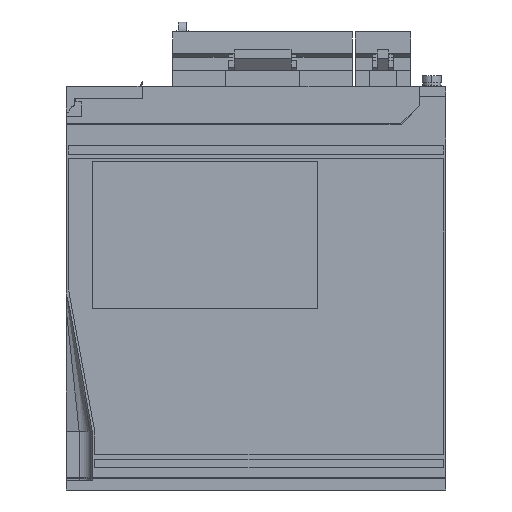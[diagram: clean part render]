
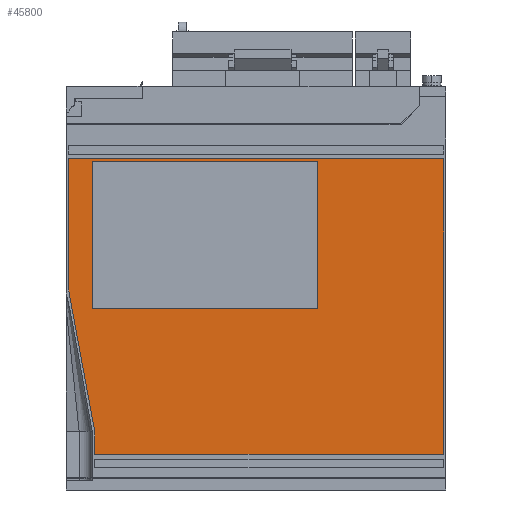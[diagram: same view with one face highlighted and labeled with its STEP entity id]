
A CAD part, left-side view. The second image highlights one B-rep face of the part: STEP entity #45800.
In plain terms, the highlighted planar face has unit normal (-1, 0, 0).
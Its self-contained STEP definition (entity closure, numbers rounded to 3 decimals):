
#25917 = CARTESIAN_POINT ( 'NONE',  ( -4.7, 4., 139.5 ) ) ;
#25918 = LINE ( 'NONE', #25917, #25982 ) ;
#25933 = CARTESIAN_POINT ( 'NONE',  ( -4.7, -7., 15. ) ) ;
#25934 = DIRECTION ( 'NONE',  ( 0., -1., 0. ) ) ;
#25935 = VECTOR ( 'NONE', #25934, 1000. ) ;
#25936 = CARTESIAN_POINT ( 'NONE',  ( -4.7, -7., 15. ) ) ;
#25937 = LINE ( 'NONE', #25936, #25935 ) ;
#25949 = CARTESIAN_POINT ( 'NONE',  ( -4.7, 4., 139.5 ) ) ;
#25966 = DIRECTION ( 'NONE',  ( 0., 0., 1. ) ) ;
#25967 = VECTOR ( 'NONE', #25966, 1000. ) ;
#25968 = CARTESIAN_POINT ( 'NONE',  ( -4.7, -154., 15. ) ) ;
#25969 = LINE ( 'NONE', #25968, #25967 ) ;
#25980 = CARTESIAN_POINT ( 'NONE',  ( -4.7, -154., 139.5 ) ) ;
#25981 = DIRECTION ( 'NONE',  ( 0., 1., 0. ) ) ;
#25982 = VECTOR ( 'NONE', #25981, 1000. ) ;
#25983 = CARTESIAN_POINT ( 'NONE',  ( -4.7, 4., 84.683 ) ) ;
#25984 = LINE ( 'NONE', #25983, #26048 ) ;
#25995 = DIRECTION ( 'NONE',  ( 0., -0.181, -0.983 ) ) ;
#25996 = VECTOR ( 'NONE', #25995, 1000. ) ;
#25997 = CARTESIAN_POINT ( 'NONE',  ( -4.7, 4., 84.683 ) ) ;
#25998 = LINE ( 'NONE', #25997, #25996 ) ;
#25999 = DIRECTION ( 'NONE',  ( 0., 0., 1. ) ) ;
#26000 = VECTOR ( 'NONE', #25999, 1000. ) ;
#26001 = CARTESIAN_POINT ( 'NONE',  ( -4.7, -101., 139.5 ) ) ;
#26002 = LINE ( 'NONE', #26001, #26000 ) ;
#26003 = CARTESIAN_POINT ( 'NONE',  ( -4.7, -101., 138.5 ) ) ;
#26004 = DIRECTION ( 'NONE',  ( 0., 1., 0. ) ) ;
#26005 = VECTOR ( 'NONE', #26004, 1000. ) ;
#26006 = CARTESIAN_POINT ( 'NONE',  ( -4.7, -154., 138.5 ) ) ;
#26011 = LINE ( 'NONE', #26006, #26005 ) ;
#26017 = CARTESIAN_POINT ( 'NONE',  ( -4.7, -154., 15. ) ) ;
#26018 = CARTESIAN_POINT ( 'NONE',  ( -4.7, 4., 84.683 ) ) ;
#26030 = CARTESIAN_POINT ( 'NONE',  ( -4.7, -7., 24.891 ) ) ;
#26031 = DIRECTION ( 'NONE',  ( 0., 0., -1. ) ) ;
#26032 = VECTOR ( 'NONE', #26031, 1000. ) ;
#26033 = CARTESIAN_POINT ( 'NONE',  ( -4.7, -7., 24.891 ) ) ;
#26034 = LINE ( 'NONE', #26033, #26032 ) ;
#26035 = CARTESIAN_POINT ( 'NONE',  ( -4.7, -6., 76.5 ) ) ;
#26036 = DIRECTION ( 'NONE',  ( 0., -1., 0. ) ) ;
#26037 = VECTOR ( 'NONE', #26036, 1000. ) ;
#26038 = CARTESIAN_POINT ( 'NONE',  ( -4.7, -154., 76.5 ) ) ;
#26039 = LINE ( 'NONE', #26038, #26037 ) ;
#26040 = DIRECTION ( 'NONE',  ( 0., -1., 0. ) ) ;
#26041 = DIRECTION ( 'NONE',  ( -1., 0., 0. ) ) ;
#26042 = CARTESIAN_POINT ( 'NONE',  ( -4.7, -154., 139.5 ) ) ;
#26043 = AXIS2_PLACEMENT_3D ( 'NONE', #26042, #26041, #26040 ) ;
#26044 = PLANE ( 'NONE',  #26043 ) ;
#26045 = FACE_OUTER_BOUND ( 'NONE', #45786, .T. ) ;
#26046 = FACE_BOUND ( 'NONE', #45801, .T. ) ;
#26047 = DIRECTION ( 'NONE',  ( 0., 0., -1. ) ) ;
#26048 = VECTOR ( 'NONE', #26047, 1000. ) ;
#26081 = CARTESIAN_POINT ( 'NONE',  ( -4.7, -101., 76.5 ) ) ;
#26154 = CARTESIAN_POINT ( 'NONE',  ( -4.7, -6., 138.5 ) ) ;
#26155 = DIRECTION ( 'NONE',  ( 0., 0., -1. ) ) ;
#26156 = VECTOR ( 'NONE', #26155, 1000. ) ;
#26157 = CARTESIAN_POINT ( 'NONE',  ( -4.7, -6., 139.5 ) ) ;
#26158 = LINE ( 'NONE', #26157, #26156 ) ;
#45747 = EDGE_CURVE ( 'NONE', #45748, #45818, #25937, .T. ) ;
#45748 = VERTEX_POINT ( 'NONE', #25933 ) ;
#45757 = EDGE_CURVE ( 'NONE', #45758, #45779, #25918, .T. ) ;
#45758 = VERTEX_POINT ( 'NONE', #25980 ) ;
#45766 = EDGE_CURVE ( 'NONE', #45818, #45758, #25969, .T. ) ;
#45779 = VERTEX_POINT ( 'NONE', #25949 ) ;
#45782 = EDGE_CURVE ( 'NONE', #45783, #45861, #26011, .T. ) ;
#45783 = VERTEX_POINT ( 'NONE', #26003 ) ;
#45784 = ORIENTED_EDGE ( 'NONE', *, *, #45785, .F. ) ;
#45785 = EDGE_CURVE ( 'NONE', #45858, #45783, #26002, .T. ) ;
#45786 = EDGE_LOOP ( 'NONE', ( #45787, #45788, #45789, #45845, #45846, #45847 ) ) ;
#45787 = ORIENTED_EDGE ( 'NONE', *, *, #45757, .T. ) ;
#45788 = ORIENTED_EDGE ( 'NONE', *, *, #45798, .T. ) ;
#45789 = ORIENTED_EDGE ( 'NONE', *, *, #45790, .T. ) ;
#45790 = EDGE_CURVE ( 'NONE', #45817, #45809, #25998, .T. ) ;
#45798 = EDGE_CURVE ( 'NONE', #45779, #45817, #25984, .T. ) ;
#45800 = ADVANCED_FACE ( 'NONE', ( #26046, #26045 ), #26044, .T. ) ;
#45801 = EDGE_LOOP ( 'NONE', ( #45802, #45859, #45862, #45784 ) ) ;
#45802 = ORIENTED_EDGE ( 'NONE', *, *, #45803, .F. ) ;
#45803 = EDGE_CURVE ( 'NONE', #45804, #45858, #26039, .T. ) ;
#45804 = VERTEX_POINT ( 'NONE', #26035 ) ;
#45808 = EDGE_CURVE ( 'NONE', #45809, #45748, #26034, .T. ) ;
#45809 = VERTEX_POINT ( 'NONE', #26030 ) ;
#45817 = VERTEX_POINT ( 'NONE', #26018 ) ;
#45818 = VERTEX_POINT ( 'NONE', #26017 ) ;
#45845 = ORIENTED_EDGE ( 'NONE', *, *, #45808, .T. ) ;
#45846 = ORIENTED_EDGE ( 'NONE', *, *, #45747, .T. ) ;
#45847 = ORIENTED_EDGE ( 'NONE', *, *, #45766, .T. ) ;
#45858 = VERTEX_POINT ( 'NONE', #26081 ) ;
#45859 = ORIENTED_EDGE ( 'NONE', *, *, #45860, .F. ) ;
#45860 = EDGE_CURVE ( 'NONE', #45861, #45804, #26158, .T. ) ;
#45861 = VERTEX_POINT ( 'NONE', #26154 ) ;
#45862 = ORIENTED_EDGE ( 'NONE', *, *, #45782, .F. ) ;
